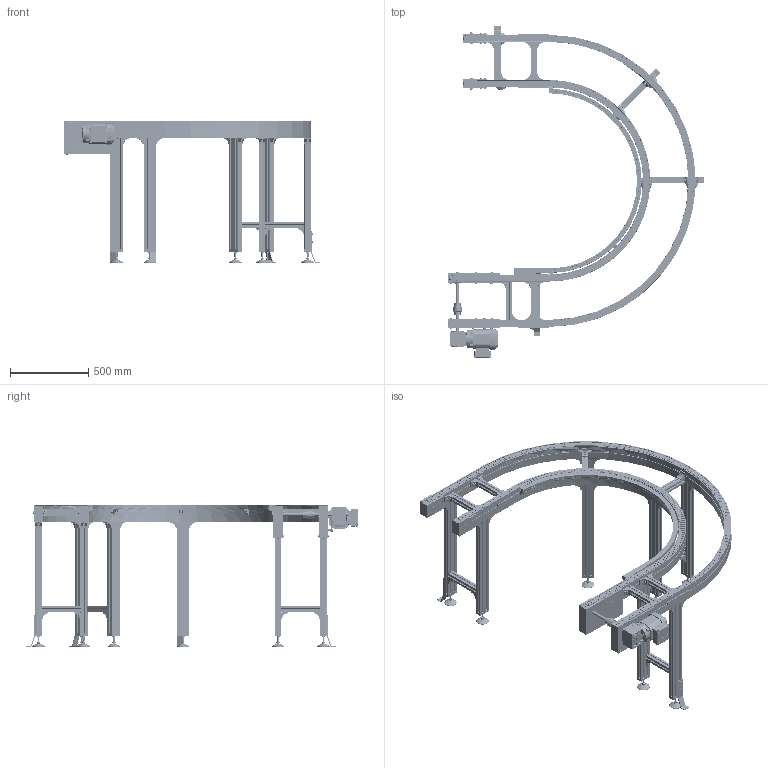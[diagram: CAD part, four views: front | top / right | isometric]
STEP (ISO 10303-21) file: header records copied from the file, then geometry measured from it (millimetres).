
FILE_DESCRIPTION(/* description */ (''),/* implementation_level */ '2;1');
FILE_NAME(/* name */ 'C:\Marketing\01_Versamove-SPU_STEP-Dateien-Homepage\VersamoveStandard\B320\STEP-Dateien\Flachplattenförderer_FPF-P-2045_Kurve180-rechts_B320.stp',/* time_stamp */ '2016-12-19T16:05:40+01:00',/* author */ ('herbert.engels'),/* organization */ (''),/* preprocessor_version */ 'ST-DEVELOPER v15.6',/* originating_system */ 'Autodesk Inventor 2015',/* authorisation */ '');
FILE_SCHEMA (('CONFIG_CONTROL_DESIGN'));
Length unit declared in the file: millimetre
Products named in the file (1): Flachplattenförderer_FPF-P-2045_Kurve180-rechts_B
320
Bounding box: 1640.91 x 2126.2 x 905.3 mm (x, y, z)
Volume: 44741651.4 mm3; surface area: 10795472.8 mm2
Topology: 5 solids, 5 shells, 10781 faces, 30686 edges, 19569 vertices
Faces by surface type: plane 7005, cylinder 2709, cone 612, torus 353, sphere 86, bspline 16
Full cylindrical faces by diameter (mm): 2 x8, 6 x14, 6.647 x12, 7.323 x4, 8 x137, 8.7 x4, 9 x32, 10 x10, 10.066 x1, 11 x6, 11.4 x24, 12 x16, 13 x132, 13.6 x8, 14 x90, 15 x16, 16 x16, 18 x4, 19 x4, 19.77 x4, 20 x17, 25 x1, 25.05 x4, 28 x1, 30 x2, 40 x2, 53 x1, 54 x2, 56 x3, 79 x8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
Entity records: 361101 total; most frequent: CARTESIAN_POINT 70546, ORIENTED_EDGE 58844, DIRECTION 57254, EDGE_CURVE 29380, LINE 19814, VECTOR 19814, VERTEX_POINT 19192, AXIS2_PLACEMENT_3D 18720
